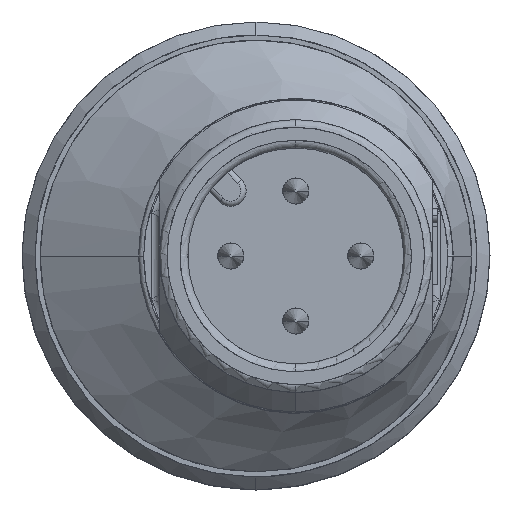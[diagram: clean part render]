
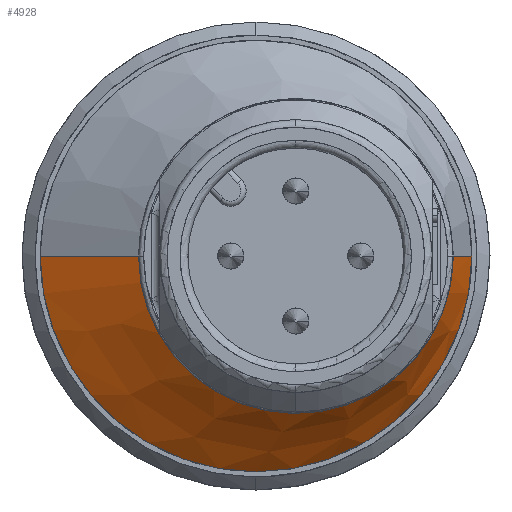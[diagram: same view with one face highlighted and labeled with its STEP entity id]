
A CAD part, left-side view. The second image highlights one B-rep face of the part: STEP entity #4928.
In plain terms, the highlighted free-form (B-spline) face has degree [3, 3] with [11, 4] control points.
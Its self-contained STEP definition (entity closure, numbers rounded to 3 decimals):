
#4134=CARTESIAN_POINT('',(-39.833,93.115,
-0.2));
#4135=CARTESIAN_POINT('',(-39.833,93.115,
-0.411));
#4136=CARTESIAN_POINT('',(-39.833,93.093,
-0.834));
#4137=CARTESIAN_POINT('',(-39.833,92.993,
-1.465));
#4138=CARTESIAN_POINT('',(-39.832,92.827,
-2.08));
#4139=CARTESIAN_POINT('',(-39.831,92.6,
-2.671));
#4140=CARTESIAN_POINT('',(-39.83,92.31,
-3.239));
#4141=CARTESIAN_POINT('',(-39.828,91.962,
-3.773));
#4142=CARTESIAN_POINT('',(-39.827,91.562,
-4.264));
#4143=CARTESIAN_POINT('',(-39.824,91.111,
-4.714));
#4144=CARTESIAN_POINT('',(-39.822,90.615,
-5.113));
#4145=CARTESIAN_POINT('',(-39.819,90.084,
-5.456));
#4146=CARTESIAN_POINT('',(-39.816,89.515,
-5.744));
#4147=CARTESIAN_POINT('',(-39.812,88.921,
-5.97));
#4148=CARTESIAN_POINT('',(-39.807,88.309,
-6.132));
#4149=CARTESIAN_POINT('',(-39.802,87.68,
-6.23));
#4150=CARTESIAN_POINT('',(-39.796,87.048,
-6.261));
#4151=CARTESIAN_POINT('',(-39.789,86.414,
-6.226));
#4152=CARTESIAN_POINT('',(-39.782,85.789,
-6.125));
#4153=CARTESIAN_POINT('',(-39.773,85.178,
-5.96));
#4154=CARTESIAN_POINT('',(-39.763,84.588,
-5.732));
#4155=CARTESIAN_POINT('',(-39.752,84.024,
-5.443));
#4156=CARTESIAN_POINT('',(-39.739,83.493,
-5.097));
#4157=CARTESIAN_POINT('',(-39.725,83.001,
-4.697));
#4158=CARTESIAN_POINT('',(-39.71,82.554,
-4.248));
#4159=CARTESIAN_POINT('',(-39.694,82.156,
-3.755));
#4160=CARTESIAN_POINT('',(-39.678,81.812,
-3.223));
#4161=CARTESIAN_POINT('',(-39.662,81.525,
-2.658));
#4162=CARTESIAN_POINT('',(-39.648,81.299,
-2.067));
#4163=CARTESIAN_POINT('',(-39.636,81.135,
-1.456));
#4164=CARTESIAN_POINT('',(-39.63,81.037,
-0.831));
#4165=CARTESIAN_POINT('',(-39.626,81.015,
-0.41));
#4166=CARTESIAN_POINT('',(-39.626,81.015,
-0.2));
#4246=DIRECTION('',(-0.94,0.342,0.));
#4247=VECTOR('',#4246,2.108);
#4248=CARTESIAN_POINT('',(-37.645,80.294,
-0.2));
#4249=LINE('',#4248,#4247);
#4253=DIRECTION('',(-0.501,-0.865,0.));
#4254=VECTOR('',#4253,4.369);
#4255=CARTESIAN_POINT('',(-37.644,96.896,
-0.2));
#4256=LINE('',#4255,#4254);
#4260=CARTESIAN_POINT('',(-37.645,88.595,
-0.199));
#4261=DIRECTION('',(1.,0.,0.));
#4262=DIRECTION('',(0.,0.,-1.));
#4263=AXIS2_PLACEMENT_3D('',#4260,#4261,#4262);
#4292=CARTESIAN_POINT('',(-37.645,88.595,
-0.2));
#4293=DIRECTION('',(1.,0.,0.));
#4294=DIRECTION('',(0.,-1.,0.));
#4295=AXIS2_PLACEMENT_3D('',#4292,#4293,#4294);
#4725=CARTESIAN_POINT('',(-39.626,81.015,
-0.2));
#4726=VERTEX_POINT('',#4725);
#4727=CARTESIAN_POINT('',(-39.833,93.115,
-0.2));
#4728=VERTEX_POINT('',#4727);
#4729=CARTESIAN_POINT('',(-37.645,96.896,
-0.2));
#4730=CARTESIAN_POINT('',(-37.645,88.595,
-8.5));
#4731=VERTEX_POINT('',#4729);
#4732=VERTEX_POINT('',#4730);
#4733=CARTESIAN_POINT('',(-37.645,80.294,
-0.2));
#4734=VERTEX_POINT('',#4733);
#4874=CARTESIAN_POINT('',(-37.644,80.294,
-0.2));
#4875=CARTESIAN_POINT('',(-38.374,80.559,
-0.2));
#4876=CARTESIAN_POINT('',(-39.104,80.824,
-0.2));
#4877=CARTESIAN_POINT('',(-39.833,81.09,
-0.2));
#4878=CARTESIAN_POINT('',(-37.644,80.294,
-1.287));
#4879=CARTESIAN_POINT('',(-38.374,80.559,
-1.187));
#4880=CARTESIAN_POINT('',(-39.104,80.825,
-1.087));
#4881=CARTESIAN_POINT('',(-39.833,81.09,
-0.987));
#4882=CARTESIAN_POINT('',(-37.644,80.726,
-3.459));
#4883=CARTESIAN_POINT('',(-38.374,80.952,
-3.16));
#4884=CARTESIAN_POINT('',(-39.104,81.177,
-2.86));
#4885=CARTESIAN_POINT('',(-39.833,81.403,
-2.561));
#4886=CARTESIAN_POINT('',(-37.644,82.573,
-6.222));
#4887=CARTESIAN_POINT('',(-38.374,82.628,
-5.669));
#4888=CARTESIAN_POINT('',(-39.104,82.684,
-5.115));
#4889=CARTESIAN_POINT('',(-39.833,82.74,
-4.562));
#4890=CARTESIAN_POINT('',(-37.644,85.336,
-8.068));
#4891=CARTESIAN_POINT('',(-38.374,85.138,
-7.345));
#4892=CARTESIAN_POINT('',(-39.104,84.94,
-6.622));
#4893=CARTESIAN_POINT('',(-39.833,84.742,
-5.899));
#4894=CARTESIAN_POINT('',(-37.644,88.595,
-8.717));
#4895=CARTESIAN_POINT('',(-38.374,88.097,
-7.934));
#4896=CARTESIAN_POINT('',(-39.104,87.6,
-7.151));
#4897=CARTESIAN_POINT('',(-39.833,87.102,
-6.368));
#4898=CARTESIAN_POINT('',(-37.644,91.854,
-8.068));
#4899=CARTESIAN_POINT('',(-38.374,91.057,
-7.345));
#4900=CARTESIAN_POINT('',(-39.104,90.26,
-6.622));
#4901=CARTESIAN_POINT('',(-39.833,89.463,
-5.899));
#4902=CARTESIAN_POINT('',(-37.644,94.617,
-6.222));
#4903=CARTESIAN_POINT('',(-38.374,93.566,
-5.669));
#4904=CARTESIAN_POINT('',(-39.104,92.515,
-5.115));
#4905=CARTESIAN_POINT('',(-39.833,91.464,
-4.562));
#4906=CARTESIAN_POINT('',(-37.644,96.464,
-3.459));
#4907=CARTESIAN_POINT('',(-38.374,95.243,
-3.16));
#4908=CARTESIAN_POINT('',(-39.104,94.022,
-2.86));
#4909=CARTESIAN_POINT('',(-39.833,92.802,
-2.561));
#4910=CARTESIAN_POINT('',(-37.644,96.896,
-1.287));
#4911=CARTESIAN_POINT('',(-38.374,95.636,
-1.187));
#4912=CARTESIAN_POINT('',(-39.104,94.375,
-1.087));
#4913=CARTESIAN_POINT('',(-39.833,93.115,
-0.987));
#4914=CARTESIAN_POINT('',(-37.644,96.896,
-0.2));
#4915=CARTESIAN_POINT('',(-38.374,95.636,
-0.2));
#4916=CARTESIAN_POINT('',(-39.104,94.375,
-0.2));
#4917=CARTESIAN_POINT('',(-39.833,93.115,
-0.2));
#4918=B_SPLINE_SURFACE_WITH_KNOTS('',3,3,((#4874,#4875,#4876,#4877),(#4878,
#4879,#4880,#4881),(#4882,#4883,#4884,#4885),(#4886,#4887,#4888,#4889),(#4890,
#4891,#4892,#4893),(#4894,#4895,#4896,#4897),(#4898,#4899,#4900,#4901),(#4902,
#4903,#4904,#4905),(#4906,#4907,#4908,#4909),(#4910,#4911,#4912,#4913),(#4914,
#4915,#4916,#4917)),.UNSPECIFIED.,.F.,.F.,.F.,(4,1,1,1,1,1,1,1,4),(4,4),(
0.,0.125,0.25,0.375,
0.5,0.625,0.75,0.875,
1.),(0.,0.995),.UNSPECIFIED.);
#4920=ORIENTED_EDGE('',*,*,#4919,.T.);
#4921=ORIENTED_EDGE('',*,*,#4869,.T.);
#4922=ORIENTED_EDGE('',*,*,#4796,.T.);
#4923=ORIENTED_EDGE('',*,*,#4866,.F.);
#4925=ORIENTED_EDGE('',*,*,#4924,.T.);
#4926=EDGE_LOOP('',(#4920,#4921,#4922,#4923,#4925));
#4927=FACE_OUTER_BOUND('',#4926,.F.);
#4928=ADVANCED_FACE('',(#4927),#4918,.F.);
#4167=B_SPLINE_CURVE_WITH_KNOTS('',3,(#4134,#4135,#4136,#4137,#4138,#4139,#4140,
#4141,#4142,#4143,#4144,#4145,#4146,#4147,#4148,#4149,#4150,#4151,#4152,#4153,
#4154,#4155,#4156,#4157,#4158,#4159,#4160,#4161,#4162,#4163,#4164,#4165,#4166),
.UNSPECIFIED.,.F.,.F.,(4,1,1,1,1,1,1,1,1,1,1,1,1,1,1,1,1,1,1,1,1,1,1,1,1,1,1,1,
1,1,4),(0.,0.033,0.067,0.1,0.133,
0.167,0.2,0.233,0.267,0.3,
0.333,0.367,0.4,0.433,0.467,
0.5,0.533,0.567,0.6,0.633,
0.667,0.7,0.733,0.767,0.8,
0.833,0.867,0.9,0.933,0.967,
1.),.UNSPECIFIED.);
#4264=CIRCLE('',#4263,8.301);
#4296=CIRCLE('',#4295,8.3);
#4796=EDGE_CURVE('',#4728,#4726,#4167,.T.);
#4866=EDGE_CURVE('',#4734,#4726,#4249,.T.);
#4869=EDGE_CURVE('',#4731,#4728,#4256,.T.);
#4919=EDGE_CURVE('',#4732,#4731,#4264,.T.);
#4924=EDGE_CURVE('',#4734,#4732,#4296,.T.);
